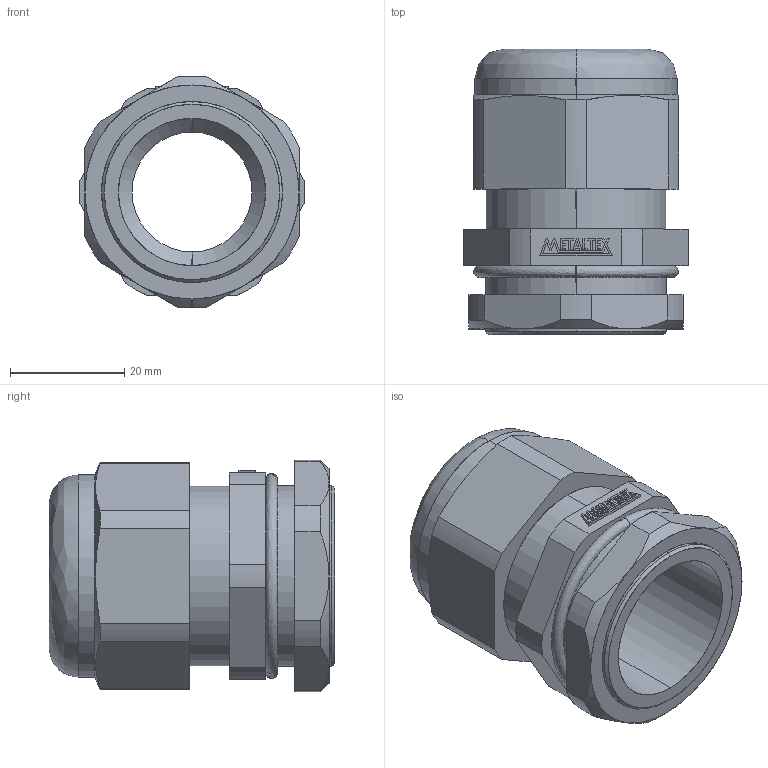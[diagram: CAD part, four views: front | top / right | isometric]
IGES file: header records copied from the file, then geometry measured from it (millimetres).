
Start section: SolidWorks IGES file using analytic representation for surfaces
Global section: file name: D:\X - Arquivos\PROEX\Empresas\P11 - METALTEX\01 - Produtos\IGES\Terceira remessa\Etapa 2\CH-M32.IGS; native system: SolidWorks 2012; preprocessor: SolidWorks 2012; author: Usuario; date: 180207.124402; units: millimetre
Bounding box: 39.5 x 50 x 40.6 mm (x, y, z)
Surface area: 12346 mm2 (no closed solid volume)
Topology: 0 solids, 0 shells, 174 faces, 1534 edges, 1534 vertices
Faces by surface type: bspline 125, revolution 49
